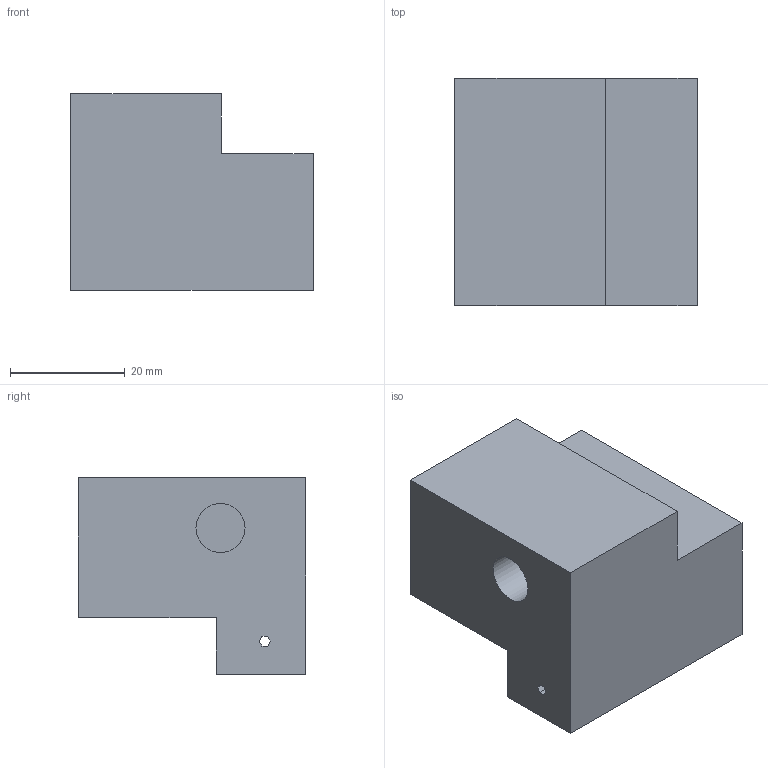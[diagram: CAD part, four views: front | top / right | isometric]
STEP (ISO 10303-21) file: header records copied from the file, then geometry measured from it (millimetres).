
FILE_DESCRIPTION(('Open CASCADE Model'),'2;1');
FILE_NAME('Open CASCADE Shape Model','2021-05-03T18:17:37',('Author'),( 'Open CASCADE'),'Open CASCADE STEP processor 7.4','Open CASCADE 7.4' ,'Unknown');
FILE_SCHEMA(('AUTOMOTIVE_DESIGN { 1 0 10303 214 1 1 1 1 }'));
Length unit declared in the file: millimetre
Products named in the file (1): Open CASCADE STEP translator 7.4 1447
Bounding box: 42.31 x 39.67 x 34.35 mm (x, y, z)
Volume: 38915.1 mm3; surface area: 8901.7 mm2
Topology: 1 solids, 1 shells, 24 faces, 59 edges, 40 vertices
Faces by surface type: plane 21, cylinder 3
Full cylindrical faces by diameter (mm): 2.256 x1, 2.325 x1, 8.561 x1
Entity records: 1489 total; most frequent: CARTESIAN_POINT 248, DIRECTION 232, LINE 165, VECTOR 165, ORIENTED_EDGE 118, PCURVE 118, DEFINITIONAL_REPRESENTATION 118, EDGE_CURVE 59
